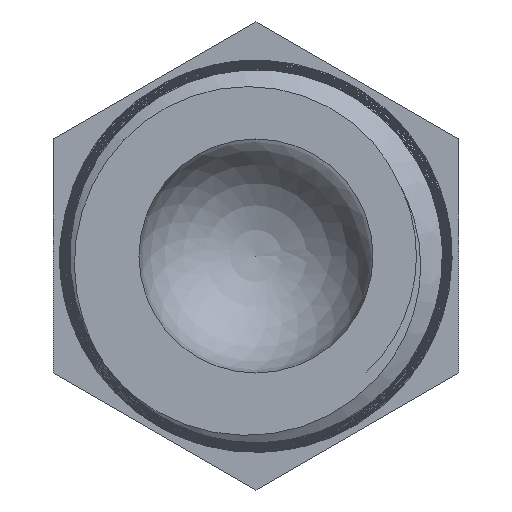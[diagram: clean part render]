
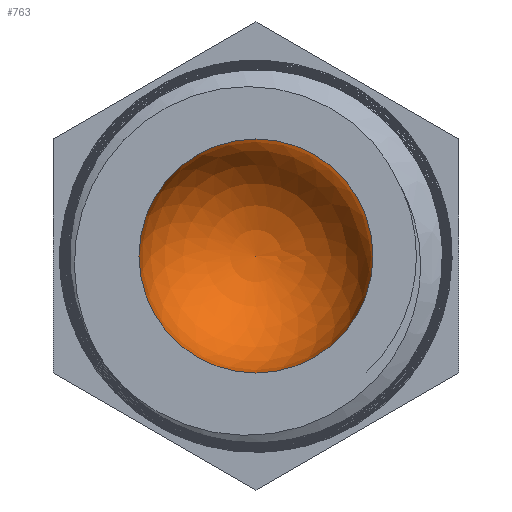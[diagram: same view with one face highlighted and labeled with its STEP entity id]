
A CAD part, left-side view. The second image highlights one B-rep face of the part: STEP entity #763.
In plain terms, the highlighted spherical face has radius 6.35 mm.
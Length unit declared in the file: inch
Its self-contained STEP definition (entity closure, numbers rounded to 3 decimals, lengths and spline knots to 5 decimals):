
#22=SPHERICAL_SURFACE('',#835,0.25);
#69=FACE_OUTER_BOUND('',#115,.T.);
#115=EDGE_LOOP('',(#614,#615,#616,#617));
#135=CIRCLE('',#836,0.25);
#136=CIRCLE('',#837,0.25);
#137=CIRCLE('',#838,0.25);
#353=VERTEX_POINT('',#8476);
#354=VERTEX_POINT('',#8477);
#355=VERTEX_POINT('',#8479);
#459=EDGE_CURVE('',#353,#354,#135,.T.);
#460=EDGE_CURVE('',#355,#353,#136,.T.);
#461=EDGE_CURVE('',#354,#353,#137,.T.);
#614=ORIENTED_EDGE('',*,*,#459,.F.);
#615=ORIENTED_EDGE('',*,*,#460,.F.);
#616=ORIENTED_EDGE('',*,*,#460,.T.);
#617=ORIENTED_EDGE('',*,*,#461,.F.);
#763=ADVANCED_FACE('',(#69),#22,.F.);
#835=AXIS2_PLACEMENT_3D('',#8475,#971,#972);
#836=AXIS2_PLACEMENT_3D('',#8478,#973,#974);
#837=AXIS2_PLACEMENT_3D('',#8480,#975,#976);
#838=AXIS2_PLACEMENT_3D('',#8481,#977,#978);
#971=DIRECTION('center_axis',(1.,0.,0.));
#972=DIRECTION('ref_axis',(0.,1.,0.));
#973=DIRECTION('center_axis',(1.,0.,0.));
#974=DIRECTION('ref_axis',(0.,1.,0.));
#975=DIRECTION('center_axis',(0.,0.,
-1.));
#976=DIRECTION('ref_axis',(0.,-1.,0.));
#977=DIRECTION('center_axis',(1.,0.,0.));
#978=DIRECTION('ref_axis',(0.,1.,0.));
#8475=CARTESIAN_POINT('Origin',(3.69735,0.84674,-0.01029));
#8476=CARTESIAN_POINT('',(3.69735,0.59674,-0.01029));
#8477=CARTESIAN_POINT('',(3.69735,0.84674,0.23971));
#8478=CARTESIAN_POINT('Origin',(3.69735,0.84674,-0.01029));
#8479=CARTESIAN_POINT('',(3.94735,0.84674,-0.01029));
#8480=CARTESIAN_POINT('Origin',(3.69735,0.84674,-0.01029));
#8481=CARTESIAN_POINT('Origin',(3.69735,0.84674,-0.01029));
